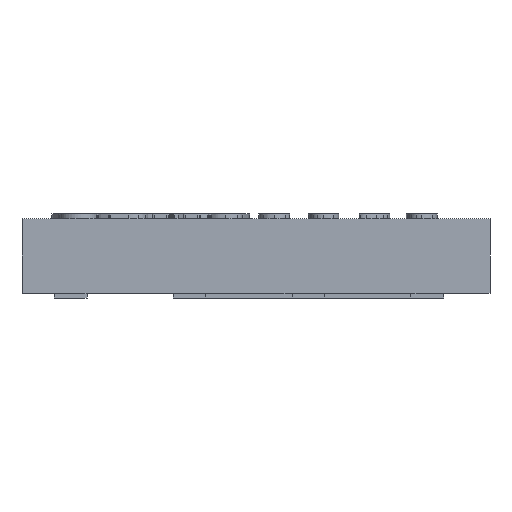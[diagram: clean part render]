
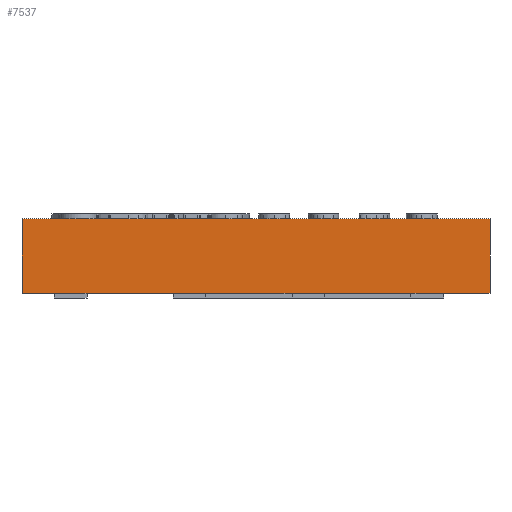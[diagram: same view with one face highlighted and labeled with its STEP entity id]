
A CAD part, front view. The second image highlights one B-rep face of the part: STEP entity #7537.
In plain terms, the highlighted planar face has unit normal (0, -1, 0).
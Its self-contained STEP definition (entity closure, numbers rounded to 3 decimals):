
#933=PLANE('',#7703);
#1381=FACE_OUTER_BOUND('',#1800,.T.);
#1800=EDGE_LOOP('',(#7121,#7122,#7123,#7124,#7125,#7126,#7127,#7128,#7129,
#7130,#7131,#7132));
#2002=LINE('',#10590,#2615);
#2279=LINE('',#14805,#2892);
#2286=LINE('',#14820,#2899);
#2293=LINE('',#14835,#2906);
#2300=LINE('',#14850,#2913);
#2360=LINE('',#14967,#2973);
#2364=LINE('',#14973,#2977);
#2368=LINE('',#14980,#2981);
#2375=LINE('',#14991,#2988);
#2381=LINE('',#15004,#2994);
#2413=LINE('',#15071,#3026);
#2414=LINE('',#15074,#3027);
#2615=VECTOR('',#8005,10.);
#2892=VECTOR('',#8382,10.);
#2899=VECTOR('',#8393,10.);
#2906=VECTOR('',#8404,10.);
#2913=VECTOR('',#8415,10.);
#2973=VECTOR('',#8507,10.);
#2977=VECTOR('',#8511,10.);
#2981=VECTOR('',#8515,10.);
#2988=VECTOR('',#8524,10.);
#2994=VECTOR('',#8538,10.);
#3026=VECTOR('',#8616,10.);
#3027=VECTOR('',#8621,10.);
#3266=VERTEX_POINT('',#10587);
#3267=VERTEX_POINT('',#10589);
#3690=VERTEX_POINT('',#14803);
#3691=VERTEX_POINT('',#14804);
#3696=VERTEX_POINT('',#14818);
#3697=VERTEX_POINT('',#14819);
#3702=VERTEX_POINT('',#14833);
#3703=VERTEX_POINT('',#14834);
#3708=VERTEX_POINT('',#14848);
#3709=VERTEX_POINT('',#14849);
#3750=VERTEX_POINT('',#14965);
#3755=VERTEX_POINT('',#14979);
#4124=EDGE_CURVE('',#3266,#3267,#2002,.T.);
#4759=EDGE_CURVE('',#3690,#3691,#2279,.T.);
#4766=EDGE_CURVE('',#3696,#3697,#2286,.T.);
#4773=EDGE_CURVE('',#3702,#3703,#2293,.T.);
#4780=EDGE_CURVE('',#3708,#3709,#2300,.T.);
#4840=EDGE_CURVE('',#3691,#3750,#2360,.T.);
#4844=EDGE_CURVE('',#3703,#3708,#2364,.T.);
#4848=EDGE_CURVE('',#3755,#3702,#2368,.T.);
#4855=EDGE_CURVE('',#3750,#3267,#2375,.T.);
#4861=EDGE_CURVE('',#3709,#3696,#2381,.T.);
#4893=EDGE_CURVE('',#3697,#3690,#2413,.T.);
#4894=EDGE_CURVE('',#3755,#3266,#2414,.T.);
#7121=ORIENTED_EDGE('',*,*,#4759,.T.);
#7122=ORIENTED_EDGE('',*,*,#4840,.T.);
#7123=ORIENTED_EDGE('',*,*,#4855,.T.);
#7124=ORIENTED_EDGE('',*,*,#4124,.F.);
#7125=ORIENTED_EDGE('',*,*,#4894,.F.);
#7126=ORIENTED_EDGE('',*,*,#4848,.T.);
#7127=ORIENTED_EDGE('',*,*,#4773,.T.);
#7128=ORIENTED_EDGE('',*,*,#4844,.T.);
#7129=ORIENTED_EDGE('',*,*,#4780,.T.);
#7130=ORIENTED_EDGE('',*,*,#4861,.T.);
#7131=ORIENTED_EDGE('',*,*,#4766,.T.);
#7132=ORIENTED_EDGE('',*,*,#4893,.T.);
#7537=ADVANCED_FACE('',(#1381),#933,.T.);
#7703=AXIS2_PLACEMENT_3D('',#15073,#8619,#8620);
#8005=DIRECTION('',(1.,0.,0.));
#8382=DIRECTION('',(1.,0.,0.));
#8393=DIRECTION('',(1.,0.,0.));
#8404=DIRECTION('',(1.,0.,0.));
#8415=DIRECTION('',(1.,0.,0.));
#8507=DIRECTION('',(1.,0.,0.));
#8511=DIRECTION('',(1.,0.,0.));
#8515=DIRECTION('',(1.,0.,0.));
#8524=DIRECTION('',(0.,0.,1.));
#8538=DIRECTION('',(1.,0.,0.));
#8616=DIRECTION('',(1.,0.,0.));
#8619=DIRECTION('center_axis',(0.,-1.,0.));
#8620=DIRECTION('ref_axis',(1.,0.,0.));
#8621=DIRECTION('',(0.,0.,1.));
#10587=CARTESIAN_POINT('',(0.,0.,0.8));
#10589=CARTESIAN_POINT('',(5.,0.,0.8));
#10590=CARTESIAN_POINT('',(0.,0.,0.8));
#14803=CARTESIAN_POINT('',(4.155,0.,0.));
#14804=CARTESIAN_POINT('',(4.505,0.,0.));
#14805=CARTESIAN_POINT('',(3.695,0.,0.));
#14818=CARTESIAN_POINT('',(2.885,0.,0.));
#14819=CARTESIAN_POINT('',(3.235,0.,0.));
#14820=CARTESIAN_POINT('',(3.06,0.,0.));
#14833=CARTESIAN_POINT('',(0.345,0.,0.));
#14834=CARTESIAN_POINT('',(0.695,0.,0.));
#14835=CARTESIAN_POINT('',(1.79,0.,0.));
#14848=CARTESIAN_POINT('',(1.615,0.,0.));
#14849=CARTESIAN_POINT('',(1.965,0.,0.));
#14850=CARTESIAN_POINT('',(2.425,0.,0.));
#14965=CARTESIAN_POINT('',(5.,0.,0.));
#14967=CARTESIAN_POINT('',(0.,0.,0.));
#14973=CARTESIAN_POINT('',(0.,0.,0.));
#14979=CARTESIAN_POINT('',(0.,0.,0.));
#14980=CARTESIAN_POINT('',(0.,0.,0.));
#14991=CARTESIAN_POINT('',(5.,0.,0.));
#15004=CARTESIAN_POINT('',(0.,0.,0.));
#15071=CARTESIAN_POINT('',(0.,0.,0.));
#15073=CARTESIAN_POINT('Origin',(2.885,0.,0.));
#15074=CARTESIAN_POINT('',(0.,0.,0.));
